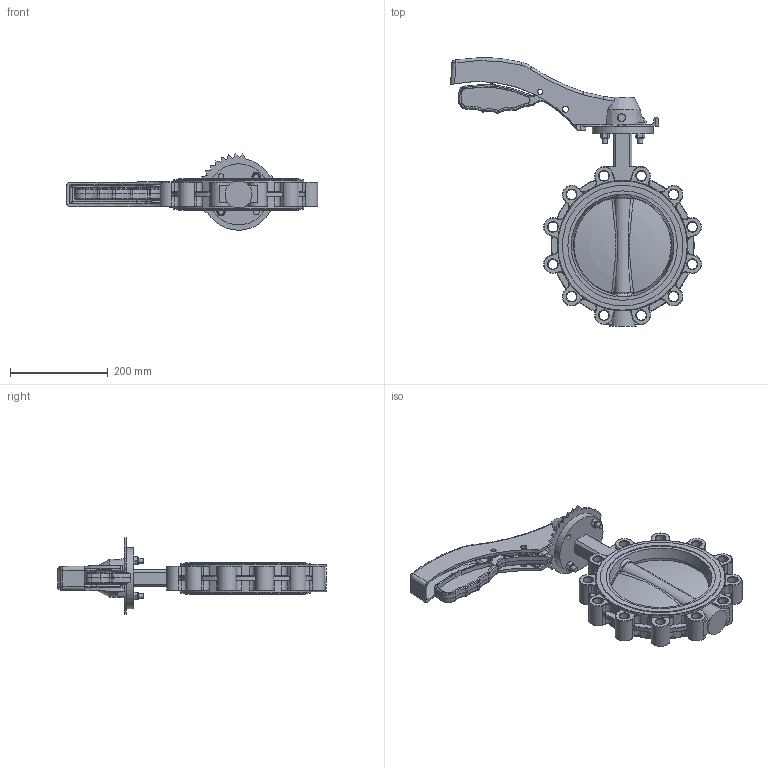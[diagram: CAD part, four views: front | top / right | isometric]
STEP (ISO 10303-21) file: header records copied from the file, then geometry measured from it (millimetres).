
FILE_DESCRIPTION (( 'STEP AP214' ), '1' );
FILE_NAME ('忒梟 等標評概Fig3240-200-16.STEP', '2026-03-20T07:21:38', ( '' ), ( '' ), 'SwSTEP 2.0', 'SolidWorks 2024', '' );
FILE_SCHEMA (( 'AUTOMOTIVE_DESIGN' ));
Length unit declared in the file: millimetre
Products named in the file (1): 手柄 单夹蝶阀Fig3240-200-16
Bounding box: 513.41 x 549.32 x 156.49 mm (x, y, z)
Volume: 3598123.4 mm3; surface area: 542255.5 mm2
Topology: 1 solids, 5 shells, 1423 faces, 3926 edges, 2552 vertices
Faces by surface type: plane 828, cylinder 264, bspline 136, torus 122, cone 73
Full cylindrical faces by diameter (mm): 10 x4, 10.2 x1, 10.71 x3, 12 x4, 12.648 x2, 14.362 x2, 16.32 x1, 17.8 x2, 20 x12, 22.3 x2, 39.984 x1, 40.8 x1, 55 x1, 125 x1, 223.9 x2, 228.4 x1, 246.4 x2, 266.4 x2
Entity records: 73080 total; most frequent: CARTESIAN_POINT 23418, ORIENTED_EDGE 7602, DIRECTION 6158, EDGE_CURVE 3801, VERTEX_POINT 2517, LINE 2276, VECTOR 2276, AXIS2_PLACEMENT_3D 1941
